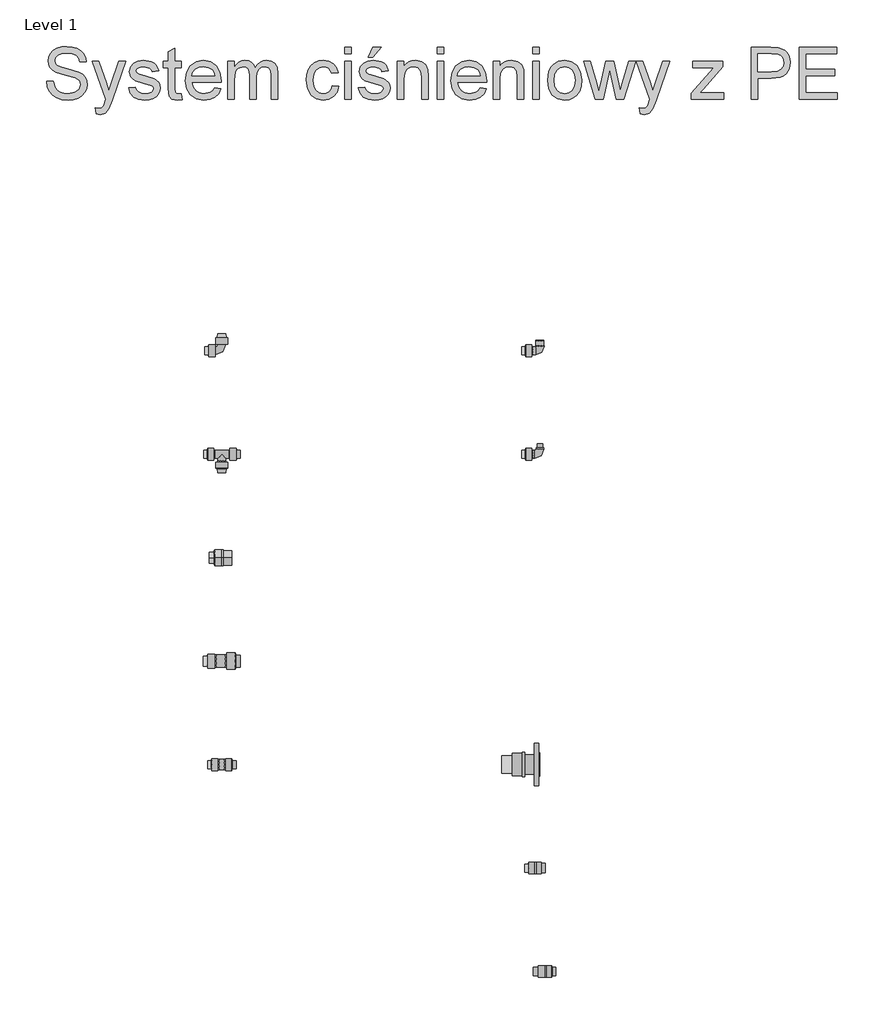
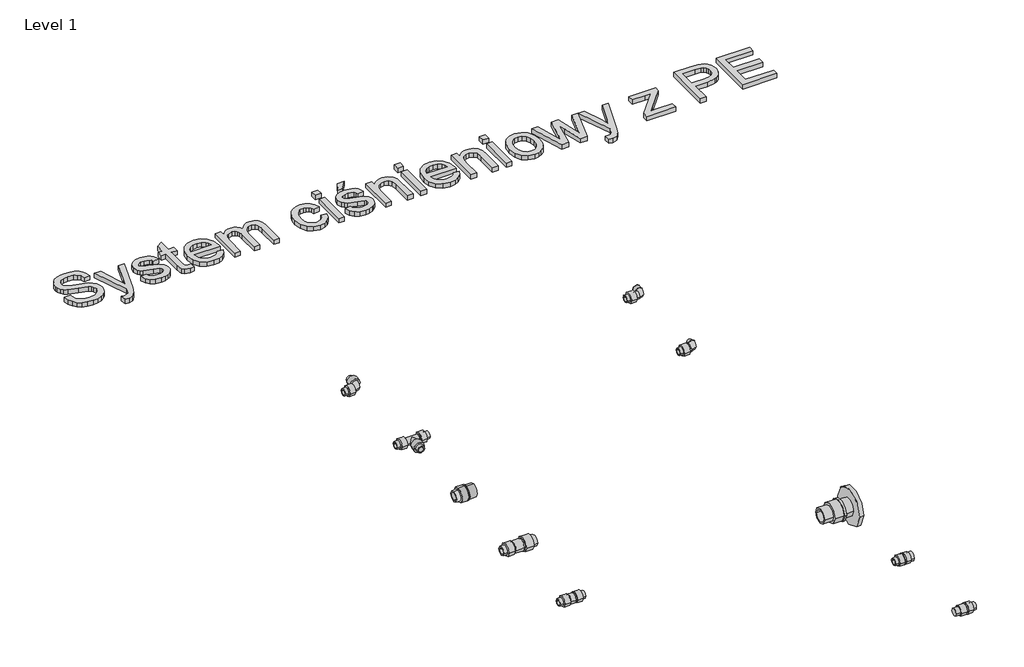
# One storey, incomplete: 10 pipe fittings, 1 proxy.
"""IFC4 building model written with IfcOpenShell, lengths in millimetres."""

from ifc_helpers import new_model, si_unit, origin, origin_with_axes, place, context, project, spatial, polyline, outline, extrude, transform, mapped, element, save
from components import pipe_fitting_46814463, pipe_fitting_5493825f, pipe_fitting_d167652b, pipe_fitting_45409f8b, pipe_fitting_b77e945e, pipe_fitting_6db44d3c, pipe_fitting_de2e0121, pipe_fitting_2241b8d5, pipe_fitting_73d87278, pipe_fitting_109fa5bd

model = new_model("IFC4")

# Units and contexts
model_context = context("Model", 3, world=origin())
ifc_project = project(units=[si_unit("LENGTHUNIT", "METRE", prefix="MILLI")], contexts=[model_context])

# Site, building, storey
site = spatial("IfcSite", under=ifc_project)
building = spatial("IfcBuilding", under=site)
storey = spatial("IfcBuildingStorey", under=building, Name="Level 1", Elevation=0.0)

# Proxy
placement = place(None, origin())
element("IfcBuildingElementProxy", 1, Name="200mm Arial", ObjectType="200mm Arial", at=placement, inside=storey, context=model_context, shape_type="SweptSolid", body=[
    extrude(outline(polyline([(-18140.1100864, 2259.5263231), (-18114.9960089, 2259.5263231), (-18106.902605, 2234.3877201), (-18098.7724129, 2225.4972385), (-18087.1350791, 2218.4952179), (-18072.9103087, 2213.9518752), (-18057.0178065, 2212.4374277), (-18030.7755575, 2217.0236899), (-18013.8284602, 2229.6297796), (-18008.2611794, 2246.478775), (-18012.4305087, 2262.150548), (-18018.7826044, 2268.3493596), (-18029.5002332, 2273.5548898), (-18066.0677036, 2283.1443471), (-18105.431077, 2295.5297077), (-18117.9329335, 2303.9787308), (-18126.7927582, 2314.218113), (-18132.0718649, 2326.0271251), (-18133.8315671, 2339.1850377), (-18131.6549319, 2353.8941862), (-18125.1250265, 2367.6100532), (-18114.4135291, 2379.2351243), (-18099.6921179, 2387.6718847), (-18082.0215194, 2392.8038385), (-18062.46246, 2394.5144898), (-18041.2724571, 2392.7241308), (-18022.7312045, 2387.3530537), (-18007.5008899, 2378.511623), (-17996.2437009, 2366.3102035), (-17989.1190529, 2351.5090846), (-17986.2863615, 2334.8685557), (-18011.4004391, 2334.8685557), (-18016.0112267, 2349.8536156), (-18025.6252095, 2360.6693463), (-18040.6470577, 2367.2176458), (-18061.4814413, 2369.4004123), (-18082.8063343, 2367.2421712), (-18097.435775, 2360.7674481), (-18105.8970609, 2351.2393045), (-18108.7174895, 2339.9208017), (-18106.718664, 2330.2700307), (-18100.7221875, 2322.5077206), (-18086.5464679, 2315.5670137), (-18059.7156078, 2308.4791539), (-18015.2754628, 2295.8730642), (-18000.9587218, 2286.7618534), (-17990.9707256, 2275.5169271), (-17985.1030078, 2262.2609126), (-17983.1471018, 2247.1164371), (-17985.3973134, 2231.6347365), (-17992.147948, 2217.0727408), (-18003.1230942, 2204.5402275), (-18018.0468404, 2195.1469739), (-18035.9933504, 2189.2792561), (-18056.0367878, 2187.3233501), (-18080.6419619, 2189.4325402), (-18100.8938658, 2195.7601106), (-18117.0254912, 2206.3305866), (-18129.2698303, 2221.1684937), (-18137.1302423, 2239.2437624), (-18140.1100864, 2259.5263231)])), origin_with_axes(), (0.0, 0.0, 1.0), 20.0),
    extrude(outline(polyline([(-17948.6152452, 2133.9559354), (-17951.7545049, 2158.1380452), (-17939.0012624, 2155.9307532), (-17927.0818858, 2158.7021309), (-17919.7732968, 2166.4276528), (-17912.9061662, 2184.9198544), (-17910.9441289, 2191.0021701), (-17964.3115437, 2338.0078154), (-17937.82404, 2338.0078154), (-17909.5216519, 2256.0927578), (-17899.6624144, 2223.3267347), (-17889.8031769, 2252.266785), (-17860.7159738, 2338.0078154), (-17834.4246739, 2338.0078154), (-17885.7810004, 2186.9309427), (-17899.1228541, 2154.1649196), (-17913.6909811, 2136.4575329), (-17933.2623033, 2130.8166757), (-17948.6152452, 2133.9559354)])), origin_with_axes(), (0.0, 0.0, 1.0), 20.0),
    extrude(outline(polyline([(-17823.0448575, 2234.4122455), (-17797.93078, 2237.5515052), (-17793.9699172, 2226.809351), (-17786.305709, 2218.9121508), (-17774.8891044, 2214.0561085), (-17759.6710525, 2212.4374277), (-17744.6369416, 2213.9212184), (-17734.0664656, 2218.3725905), (-17727.8124717, 2224.8227882), (-17725.7278071, 2232.3030554), (-17727.8247345, 2238.7042021), (-17734.1155166, 2243.5847699), (-17759.9653581, 2250.7462061), (-17797.7836272, 2263.0334647), (-17807.3546904, 2269.2077509), (-17814.2892661, 2277.3808626), (-17819.9055978, 2297.6388978), (-17815.392912, 2316.3518286), (-17803.0811279, 2330.6501755), (-17787.1150493, 2338.0813918), (-17765.5081135, 2341.1470751), (-17734.9493824, 2336.2174563), (-17723.5205151, 2330.4171835), (-17715.5252131, 2322.8756026), (-17706.8922489, 2300.3366991), (-17732.0063265, 2297.1974394), (-17735.176243, 2305.1007709), (-17741.448631, 2311.0543279), (-17763.5460762, 2316.0329975), (-17777.9670504, 2314.8435124), (-17787.5810332, 2311.275057), (-17792.9888985, 2306.1247091), (-17794.7915203, 2300.1895463), (-17791.7994134, 2292.8809573), (-17782.4306853, 2287.3382019), (-17760.799224, 2281.9916502), (-17723.937448, 2270.1703755), (-17706.8186725, 2256.7794708), (-17702.1649653, 2246.9324961), (-17700.6137295, 2234.9518058), (-17702.4347454, 2222.5664453), (-17707.897793, 2210.9168488), (-17716.794406, 2200.9165899), (-17728.9161177, 2193.4792422), (-17743.5578211, 2188.8623232), (-17760.014409, 2187.3233501), (-17785.336953, 2190.2909316), (-17803.8168919, 2199.1936759), (-17816.1532015, 2213.9334811), (-17823.0448575, 2234.4122455)])), origin_with_axes(), (0.0, 0.0, 1.0), 20.0),
    extrude(outline(polyline([(-17618.9929775, 2211.4073581), (-17615.8537179, 2189.7268458), (-17634.6402251, 2187.3233501), (-17655.6830752, 2191.4926794), (-17666.1799748, 2202.4310374), (-17669.2211326, 2230.9296293), (-17669.2211326, 2312.8937378), (-17688.0566908, 2312.8937378), (-17688.0566908, 2338.0078154), (-17669.2211326, 2338.0078154), (-17669.2211326, 2373.8640472), (-17644.1070551, 2388.6283779), (-17644.1070551, 2338.0078154), (-17618.9929775, 2338.0078154), (-17618.9929775, 2312.8937378), (-17644.1070551, 2312.8937378), (-17644.1070551, 2231.6653933), (-17642.7826799, 2218.7159471), (-17638.4907233, 2214.1296849), (-17629.9313355, 2212.4374277), (-17618.9929775, 2211.4073581)])), origin_with_axes(), (0.0, 0.0, 1.0), 20.0),
    extrude(outline(polyline([(-17490.5776358, 2234.4122455), (-17465.9540676, 2231.2729858), (-17474.826155, 2212.7194705), (-17488.9834805, 2198.8503193), (-17508.1072128, 2190.2050924), (-17531.8785211, 2187.3233501), (-17561.3458689, 2192.2958884), (-17584.0196625, 2207.2135033), (-17598.4774249, 2231.1074389), (-17603.2966791, 2263.0089393), (-17598.428374, 2295.9834288), (-17583.8234588, 2320.6437852), (-17561.4562335, 2336.0212526), (-17533.3009981, 2341.1470751), (-17506.0225482, 2336.0335153), (-17484.22554, 2320.6928361), (-17469.9333245, 2296.0815306), (-17465.1692526, 2263.1560921), (-17465.3164054, 2256.3870634), (-17578.1826015, 2256.3870634), (-17573.8354626, 2237.5882934), (-17563.7371019, 2223.7681931), (-17549.1628435, 2215.270119), (-17531.3880118, 2212.4374277), (-17506.7644436, 2217.6858775), (-17497.6164446, 2224.4916944), (-17490.5776358, 2234.4122455)]), holes=[polyline([(-17578.1826015, 2281.5011409), (-17490.2833302, 2281.5011409), (-17493.6801073, 2294.7694182), (-17500.3387714, 2304.2607737), (-17514.9804748, 2313.0899416), (-17533.3991, 2316.0329975), (-17550.3278031, 2313.6846841), (-17564.3257131, 2306.6397439), (-17574.0561918, 2295.6584664), (-17578.1826015, 2281.5011409)])]), origin_with_axes(), (0.0, 0.0, 1.0), 20.0),
    extrude(outline(polyline([(-17440.0551751, 2190.4626098), (-17440.0551751, 2338.0078154), (-17414.9410976, 2338.0078154), (-17414.9410976, 2313.7276037), (-17407.3872539, 2324.8805595), (-17397.6751692, 2333.6177569), (-17386.1359373, 2339.2647455), (-17373.100652, 2341.1470751), (-17359.1333989, 2339.2279573), (-17347.9375235, 2333.4706041), (-17339.5743395, 2324.2551601), (-17334.1051605, 2311.9617701), (-17324.9510302, 2324.730341), (-17314.5093129, 2333.8507488), (-17302.7800086, 2339.3229935), (-17289.7631173, 2341.1470751), (-17270.8846396, 2338.1120486), (-17256.9235179, 2329.0069692), (-17248.2966851, 2313.5865823), (-17245.4210742, 2291.605633), (-17245.4210742, 2190.4626098), (-17270.5351517, 2190.4626098), (-17270.5351517, 2280.8144278), (-17272.865071, 2301.7837016), (-17281.3018314, 2312.1089229), (-17295.6492293, 2316.0329975), (-17309.2547317, 2313.5191372), (-17320.3463739, 2305.9775563), (-17327.7224079, 2292.89322), (-17330.1810859, 2273.7510935), (-17330.1810859, 2190.4626098), (-17355.2951634, 2190.4626098), (-17355.2951634, 2283.610331), (-17356.7482973, 2297.810576), (-17361.1076989, 2307.9395936), (-17368.7780385, 2314.0096465), (-17380.1639863, 2316.0329975), (-17398.7542898, 2310.6373949), (-17406.1119297, 2303.9909935), (-17411.1151248, 2294.8429946), (-17414.9410976, 2264.8728747), (-17414.9410976, 2190.4626098), (-17440.0551751, 2190.4626098)])), origin_with_axes(), (0.0, 0.0, 1.0), 20.0),
    extrude(outline(polyline([(-17035.0906748, 2243.8300246), (-17009.9765973, 2240.6907649), (-17016.9786179, 2218.3541964), (-17030.1365306, 2201.4745442), (-17048.2117993, 2190.8611487), (-17069.9658879, 2187.3233501), (-17096.6802522, 2192.2591002), (-17117.5698181, 2207.0663505), (-17131.0526932, 2231.0951762), (-17135.546985, 2263.6956523), (-17133.6278672, 2286.0444835), (-17127.870514, 2305.4134706), (-17118.1829548, 2321.0545868), (-17104.4732191, 2332.2198053), (-17088.0718135, 2338.9152576), (-17070.3092445, 2341.1470751), (-17049.0885847, 2338.0813918), (-17032.1230934, 2328.8843419), (-17019.9523307, 2314.0464347), (-17013.115857, 2294.0581797), (-17038.2299345, 2290.91892), (-17042.7855399, 2301.8756721), (-17049.879531, 2309.7299527), (-17059.1195005, 2314.4572363), (-17070.1130407, 2316.0329975), (-17086.3427681, 2312.930526), (-17099.2247693, 2303.6231115), (-17107.6308729, 2287.607982), (-17110.4329074, 2264.3823654), (-17107.6921865, 2240.8440491), (-17099.470024, 2224.7737372), (-17086.8210147, 2215.5215051), (-17070.7997538, 2212.4374277), (-17057.7951253, 2214.3626768), (-17047.1326788, 2220.1384241), (-17039.3765, 2229.9118224), (-17035.0906748, 2243.8300246)])), origin_with_axes(), (0.0, 0.0, 1.0), 20.0),
    extrude(outline(polyline([(-16988.0017794, 2366.2611526), (-16988.0017794, 2391.3752301), (-16962.8877019, 2391.3752301), (-16962.8877019, 2366.2611526), (-16988.0017794, 2366.2611526)])), origin_with_axes(), (0.0, 0.0, 1.0), 20.0),
    extrude(outline(polyline([(-16988.0017794, 2190.4626098), (-16988.0017794, 2338.0078154), (-16962.8877019, 2338.0078154), (-16962.8877019, 2190.4626098), (-16988.0017794, 2190.4626098)])), origin_with_axes(), (0.0, 0.0, 1.0), 20.0),
    extrude(outline(polyline([(-16896.9632483, 2353.7041138), (-16878.1276902, 2391.3752301), (-16846.7350933, 2391.3752301), (-16878.1276902, 2353.7041138), (-16896.9632483, 2353.7041138)])), origin_with_axes(), (0.0, 0.0, 1.0), 20.0),
    extrude(outline(polyline([(-16934.6343647, 2234.4122455), (-16909.5202871, 2237.5515052), (-16905.5594243, 2226.809351), (-16897.8952161, 2218.9121508), (-16886.4786115, 2214.0561085), (-16871.2605596, 2212.4374277), (-16856.2264487, 2213.9212184), (-16845.6559728, 2218.3725905), (-16839.4019788, 2224.8227882), (-16837.3173142, 2232.3030554), (-16839.4142416, 2238.7042021), (-16845.7050237, 2243.5847699), (-16871.5548652, 2250.7462061), (-16909.3731343, 2263.0334647), (-16918.9441976, 2269.2077509), (-16925.8787732, 2277.3808626), (-16931.495105, 2297.6388978), (-16926.9824192, 2316.3518286), (-16914.670635, 2330.6501755), (-16898.7045565, 2338.0813918), (-16877.0976206, 2341.1470751), (-16846.5388895, 2336.2174563), (-16835.1100222, 2330.4171835), (-16827.1147202, 2322.8756026), (-16818.481756, 2300.3366991), (-16843.5958336, 2297.1974394), (-16846.7657501, 2305.1007709), (-16853.0381381, 2311.0543279), (-16875.1355833, 2316.0329975), (-16889.5565575, 2314.8435124), (-16899.1705403, 2311.275057), (-16904.5784056, 2306.1247091), (-16906.3810274, 2300.1895463), (-16903.3889205, 2292.8809573), (-16894.0201924, 2287.3382019), (-16872.3887311, 2281.9916502), (-16835.5269552, 2270.1703755), (-16818.4081796, 2256.7794708), (-16813.7544724, 2246.9324961), (-16812.2032367, 2234.9518058), (-16814.0242525, 2222.5664453), (-16819.4873002, 2210.9168488), (-16828.3839131, 2200.9165899), (-16840.5056248, 2193.4792422), (-16855.1473282, 2188.8623232), (-16871.6039161, 2187.3233501), (-16896.9264601, 2190.2909316), (-16915.406399, 2199.1936759), (-16927.7427086, 2213.9334811), (-16934.6343647, 2234.4122455)])), origin_with_axes(), (0.0, 0.0, 1.0), 20.0),
    extrude(outline(polyline([(-16783.9498994, 2190.4626098), (-16783.9498994, 2338.0078154), (-16758.8358219, 2338.0078154), (-16758.8358219, 2317.4064236), (-16750.1108872, 2327.7929586), (-16739.6323817, 2335.2119122), (-16727.4003054, 2339.6632843), (-16713.4146582, 2341.1470751), (-16689.6985323, 2336.3646091), (-16673.5117245, 2323.8075704), (-16665.9824063, 2305.3398942), (-16664.6580311, 2281.0596825), (-16664.6580311, 2190.4626098), (-16689.7721087, 2190.4626098), (-16689.7721087, 2277.6751682), (-16692.6661137, 2299.8952407), (-16702.8932332, 2311.642939), (-16720.134636, 2316.0329975), (-16734.8437844, 2313.5681882), (-16747.3824291, 2306.17376), (-16755.9724737, 2291.8876759), (-16758.8358219, 2268.7478984), (-16758.8358219, 2190.4626098), (-16783.9498994, 2190.4626098)])), origin_with_axes(), (0.0, 0.0, 1.0), 20.0),
    extrude(outline(polyline([(-16630.1261745, 2366.2611526), (-16630.1261745, 2391.3752301), (-16605.012097, 2391.3752301), (-16605.012097, 2366.2611526), (-16630.1261745, 2366.2611526)])), origin_with_axes(), (0.0, 0.0, 1.0), 20.0),
    extrude(outline(polyline([(-16630.1261745, 2190.4626098), (-16630.1261745, 2338.0078154), (-16605.012097, 2338.0078154), (-16605.012097, 2190.4626098), (-16630.1261745, 2190.4626098)])), origin_with_axes(), (0.0, 0.0, 1.0), 20.0),
    extrude(outline(polyline([(-16464.0397164, 2234.4122455), (-16439.4161482, 2231.2729858), (-16448.2882357, 2212.7194705), (-16462.4455611, 2198.8503193), (-16481.5692935, 2190.2050924), (-16505.3406017, 2187.3233501), (-16534.8079496, 2192.2958884), (-16557.4817432, 2207.2135033), (-16571.9395056, 2231.1074389), (-16576.7587597, 2263.0089393), (-16571.8904547, 2295.9834288), (-16557.2855395, 2320.6437852), (-16534.9183142, 2336.0212526), (-16506.7630788, 2341.1470751), (-16479.4846289, 2336.0335153), (-16457.6876206, 2320.6928361), (-16443.3954051, 2296.0815306), (-16438.6313333, 2263.1560921), (-16438.7784861, 2256.3870634), (-16551.6446822, 2256.3870634), (-16547.2975433, 2237.5882934), (-16537.1991825, 2223.7681931), (-16522.6249242, 2215.270119), (-16504.8500924, 2212.4374277), (-16480.2265242, 2217.6858775), (-16471.0785253, 2224.4916944), (-16464.0397164, 2234.4122455)]), holes=[polyline([(-16551.6446822, 2281.5011409), (-16463.7454108, 2281.5011409), (-16467.1421879, 2294.7694182), (-16473.800852, 2304.2607737), (-16488.4425554, 2313.0899416), (-16506.8611807, 2316.0329975), (-16523.7898838, 2313.6846841), (-16537.7877937, 2306.6397439), (-16547.5182725, 2295.6584664), (-16551.6446822, 2281.5011409)])]), origin_with_axes(), (0.0, 0.0, 1.0), 20.0),
    extrude(outline(polyline([(-16413.5172558, 2190.4626098), (-16413.5172558, 2338.0078154), (-16388.4031782, 2338.0078154), (-16388.4031782, 2317.4064236), (-16379.6782436, 2327.7929586), (-16369.1997381, 2335.2119122), (-16356.9676617, 2339.6632843), (-16342.9820145, 2341.1470751), (-16319.2658886, 2336.3646091), (-16303.0790808, 2323.8075704), (-16295.5497626, 2305.3398942), (-16294.2253874, 2281.0596825), (-16294.2253874, 2190.4626098), (-16319.339465, 2190.4626098), (-16319.339465, 2277.6751682), (-16322.23347, 2299.8952407), (-16332.4605895, 2311.642939), (-16349.7019923, 2316.0329975), (-16364.4111408, 2313.5681882), (-16376.9497854, 2306.17376), (-16385.53983, 2291.8876759), (-16388.4031782, 2268.7478984), (-16388.4031782, 2190.4626098), (-16413.5172558, 2190.4626098)])), origin_with_axes(), (0.0, 0.0, 1.0), 20.0),
    extrude(outline(polyline([(-16259.6935308, 2366.2611526), (-16259.6935308, 2391.3752301), (-16234.5794533, 2391.3752301), (-16234.5794533, 2366.2611526), (-16259.6935308, 2366.2611526)])), origin_with_axes(), (0.0, 0.0, 1.0), 20.0),
    extrude(outline(polyline([(-16259.6935308, 2190.4626098), (-16259.6935308, 2338.0078154), (-16234.5794533, 2338.0078154), (-16234.5794533, 2190.4626098), (-16259.6935308, 2190.4626098)])), origin_with_axes(), (0.0, 0.0, 1.0), 20.0),
    extrude(outline(polyline([(-16203.1868564, 2264.2352126), (-16197.7544656, 2299.8094015), (-16190.9639771, 2313.6325675), (-16181.4572932, 2324.8131145), (-16161.3218853, 2337.0635849), (-16137.2133519, 2341.1470751), (-16110.8300815, 2336.1745368), (-16089.7565745, 2321.2569219), (-16075.9426056, 2297.5714527), (-16071.3379493, 2266.2953518), (-16073.373563, 2240.9237568), (-16079.4804041, 2221.6099521), (-16089.480663, 2207.1460583), (-16103.1965301, 2196.3241963), (-16119.4875711, 2189.5735617), (-16137.2133519, 2187.3233501), (-16163.9154534, 2192.2774943), (-16184.9644349, 2207.1399269), (-16198.631251, 2231.3220368), (-16203.1868564, 2264.2352126)]), holes=[polyline([(-16178.0727788, 2264.2842635), (-16175.1665111, 2241.5552876), (-16166.4477078, 2225.3623484), (-16153.3265833, 2215.6686579), (-16137.2133519, 2212.4374277), (-16121.1736969, 2215.687052), (-16108.0770979, 2225.4359248), (-16099.3582946, 2241.8434618), (-16096.4520268, 2265.0690785), (-16099.3766887, 2287.1358668), (-16108.1506743, 2303.1080768), (-16121.2656674, 2312.8017673), (-16137.2133519, 2316.0329975), (-16153.3265833, 2312.8140301), (-16166.4477078, 2303.1571277), (-16175.1665111, 2287.0009767), (-16178.0727788, 2264.2842635)])]), origin_with_axes(), (0.0, 0.0, 1.0), 20.0),
    extrude(outline(polyline([(-16018.6081967, 2190.4626098), (-16063.4898001, 2338.0078154), (-16037.3947039, 2338.0078154), (-16011.9372698, 2251.9234285), (-16004.3343752, 2221.1684937), (-15998.1049068, 2250.795257), (-15977.8468716, 2338.0078154), (-15947.9258027, 2338.0078154), (-15927.7658693, 2251.0405117), (-15922.2231139, 2224.2096515), (-15914.2768628, 2252.5120397), (-15888.7703778, 2338.0078154), (-15862.5771798, 2338.0078154), (-15907.8021397, 2190.4626098), (-15938.164667, 2190.4626098), (-15957.4416836, 2276.9884551), (-15963.0334899, 2303.9664681), (-15987.9023128, 2190.4626098), (-16018.6081967, 2190.4626098)])), origin_with_axes(), (0.0, 0.0, 1.0), 20.0),
    extrude(outline(polyline([(-15845.3112515, 2133.9559354), (-15848.4505112, 2158.1380452), (-15835.6972687, 2155.9307532), (-15823.777892, 2158.7021309), (-15816.469303, 2166.4276528), (-15809.6021725, 2184.9198544), (-15807.6401352, 2191.0021701), (-15861.0075499, 2338.0078154), (-15834.5200463, 2338.0078154), (-15806.2176581, 2256.0927578), (-15796.3584206, 2223.3267347), (-15786.4991832, 2252.266785), (-15757.4119801, 2338.0078154), (-15731.1206802, 2338.0078154), (-15782.4770067, 2186.9309427), (-15795.8188604, 2154.1649196), (-15810.3869874, 2136.4575329), (-15829.9583095, 2130.8166757), (-15845.3112515, 2133.9559354)])), origin_with_axes(), (0.0, 0.0, 1.0), 20.0),
    extrude(outline(polyline([(-15647.5378909, 2190.4626098), (-15647.5378909, 2214.1051594), (-15560.8648928, 2312.8937378), (-15586.5185306, 2312.8937378), (-15641.2593715, 2312.8937378), (-15641.2593715, 2338.0078154), (-15525.1067629, 2338.0078154), (-15525.1067629, 2316.6706596), (-15601.9695744, 2229.0166429), (-15613.7417982, 2215.5766874), (-15584.7036461, 2215.5766874), (-15521.9675032, 2215.5766874), (-15521.9675032, 2190.4626098), (-15647.5378909, 2190.4626098)])), origin_with_axes(), (0.0, 0.0, 1.0), 20.0),
    extrude(outline(polyline([(-15415.2326736, 2190.4626098), (-15415.2326736, 2391.3752301), (-15340.7733578, 2391.3752301), (-15310.754187, 2389.4622438), (-15286.351348, 2380.0689901), (-15277.4792605, 2371.7425943), (-15270.5324222, 2360.6448208), (-15266.0442619, 2347.5543531), (-15264.5482084, 2333.2498749), (-15268.588779, 2309.5705371), (-15280.7104907, 2289.8397995), (-15290.4179769, 2282.071358), (-15303.378153, 2276.5224712), (-15339.0565752, 2272.0833618), (-15390.1185961, 2272.0833618), (-15390.1185961, 2190.4626098), (-15415.2326736, 2190.4626098)]), holes=[polyline([(-15390.1185961, 2297.1974394), (-15337.5850472, 2297.1974394), (-15315.3159237, 2299.5028332), (-15300.6006439, 2306.4190147), (-15292.3968754, 2317.5167882), (-15289.662286, 2332.3669581), (-15291.2748354, 2343.6486726), (-15296.1124836, 2353.1645536), (-15303.5743567, 2360.3259897), (-15313.0595808, 2364.5443699), (-15338.1736584, 2366.2611526), (-15390.1185961, 2366.2611526), (-15390.1185961, 2297.1974394)])]), origin_with_axes(), (0.0, 0.0, 1.0), 20.0),
    extrude(outline(polyline([(-15230.0163518, 2190.4626098), (-15230.0163518, 2391.3752301), (-15085.610406, 2391.3752301), (-15085.610406, 2366.2611526), (-15204.9022743, 2366.2611526), (-15204.9022743, 2306.6152184), (-15091.8889253, 2306.6152184), (-15091.8889253, 2281.5011409), (-15204.9022743, 2281.5011409), (-15204.9022743, 2215.5766874), (-15082.4711463, 2215.5766874), (-15082.4711463, 2190.4626098), (-15230.0163518, 2190.4626098)])), origin_with_axes(), (0.0, 0.0, 1.0), 20.0),
])

# Pipe fittings
pipe_fitting_shape = pipe_fitting_46814463(model_context)
element("IfcPipeFitting", 2, ObjectType="Pipelife - PE - Trójnik : Pipelife - PE - Trójnik", at=placement, inside=storey, context=model_context, shape_type="MappedRepresentation", body=[
    mapped(pipe_fitting_shape, transform((-17462.2482695, 818.4214011, 0.0), x_axis=(1.0, 0.0, 0.0), y_axis=(0.0, 1.0, 0.0), z_axis=(0.0, 0.0, 1.0))),
])
pipe_fitting_2_shape = pipe_fitting_5493825f(model_context)
element("IfcPipeFitting", 3, ObjectType="Pipelife - PE - Zaślepka : Pipelife - PE - Zaślepka", at=placement, inside=storey, context=model_context, shape_type="MappedRepresentation", body=[
    mapped(pipe_fitting_2_shape, transform((-17430.2482695, 418.4214011, 0.0), x_axis=(1.0, 0.0, 0.0), y_axis=(0.0, 1.0, 0.0), z_axis=(0.0, 0.0, 1.0))),
])
pipe_fitting_3_shape = pipe_fitting_d167652b(model_context)
element("IfcPipeFitting", 4, ObjectType="Pipelife - PE - Złącze proste redukcyjne : Pipelife - PE - Złącze proste redukcyjne", at=placement, inside=storey, context=model_context, shape_type="MappedRepresentation", body=[
    mapped(pipe_fitting_3_shape, transform((-17465.7482695, 18.4214011, 0.0), x_axis=(1.0, 0.0, 0.0), y_axis=(0.0, 1.0, 0.0), z_axis=(0.0, 0.0, 1.0))),
])
pipe_fitting_4_shape = pipe_fitting_45409f8b(model_context)
element("IfcPipeFitting", 5, ObjectType="Pipelife - PE - Złącze proste : Pipelife - PE - Złącze proste", at=placement, inside=storey, context=model_context, shape_type="MappedRepresentation", body=[
    mapped(pipe_fitting_4_shape, transform((-17462.2482695, -381.5785989, 0.0), x_axis=(1.0, 0.0, 0.0), y_axis=(0.0, 1.0, 0.0), z_axis=(0.0, 0.0, 1.0))),
])
pipe_fitting_5_shape = pipe_fitting_b77e945e(model_context)
element("IfcPipeFitting", 6, ObjectType="Pipelife - PE - Kolano 90 proste z gwintem wewnętrznym : 20 x 1/2''", at=placement, inside=storey, context=model_context, shape_type="MappedRepresentation", body=[
    mapped(pipe_fitting_5_shape, transform((-16232.6671252, 1218.4214011, 0.0), x_axis=(1.0, 0.0, 0.0), y_axis=(0.0, 1.0, 0.0), z_axis=(0.0, 0.0, 1.0))),
])
pipe_fitting_6_shape = pipe_fitting_6db44d3c(model_context)
element("IfcPipeFitting", 7, ObjectType="Pipelife - PE - Kolano 90 proste z gwintem zewnętrznym : 20 x 1/2''", at=placement, inside=storey, context=model_context, shape_type="MappedRepresentation", body=[
    mapped(pipe_fitting_6_shape, transform((-16232.6671252, 818.4214011, 0.0), x_axis=(1.0, 0.0, 0.0), y_axis=(0.0, 1.0, 0.0), z_axis=(0.0, 0.0, 1.0))),
])
pipe_fitting_7_shape = pipe_fitting_de2e0121(model_context)
element("IfcPipeFitting", 8, ObjectType="Pipelife - PE - Złącze kołnierzowe : 50 x 2''", at=placement, inside=storey, context=model_context, shape_type="MappedRepresentation", body=[
    mapped(pipe_fitting_7_shape, transform((-16232.6671252, -381.5785989, 0.0), x_axis=(1.0, 0.0, 0.0), y_axis=(0.0, 1.0, 0.0), z_axis=(0.0, 0.0, 1.0))),
])
pipe_fitting_8_shape = pipe_fitting_2241b8d5(model_context)
element("IfcPipeFitting", 9, ObjectType="Pipelife - PE - Złącze z gwintem wewnętrznym : 20 x 1/2''", at=placement, inside=storey, context=model_context, shape_type="MappedRepresentation", body=[
    mapped(pipe_fitting_8_shape, transform((-16232.6671252, -781.5785989, 0.0), x_axis=(1.0, 0.0, 0.0), y_axis=(0.0, 1.0, 0.0), z_axis=(0.0, 0.0, 1.0))),
])
pipe_fitting_9_shape = pipe_fitting_73d87278(model_context)
element("IfcPipeFitting", 10, ObjectType="Pipelife - PE - Złącze z gwintem zewnętrznym : 20 x 1''", at=placement, inside=storey, context=model_context, shape_type="MappedRepresentation", body=[
    mapped(pipe_fitting_9_shape, transform((-16232.6671252, -1181.5785989, 0.0), x_axis=(1.0, 0.0, 0.0), y_axis=(0.0, 1.0, 0.0), z_axis=(0.0, 0.0, 1.0))),
])
pipe_fitting_10_shape = pipe_fitting_109fa5bd(model_context)
element("IfcPipeFitting", 11, ObjectType="Pipelife - PE - Kolano 90 proste : Pipelife - PE - Kolano 90 proste", at=placement, inside=storey, context=model_context, shape_type="MappedRepresentation", body=[
    mapped(pipe_fitting_10_shape, transform((-17462.2482695, 1218.4214011, 0.0), x_axis=(1.0, 0.0, 0.0), y_axis=(0.0, 1.0, 0.0), z_axis=(0.0, 0.0, 1.0))),
])

save(model, "model.ifc")
